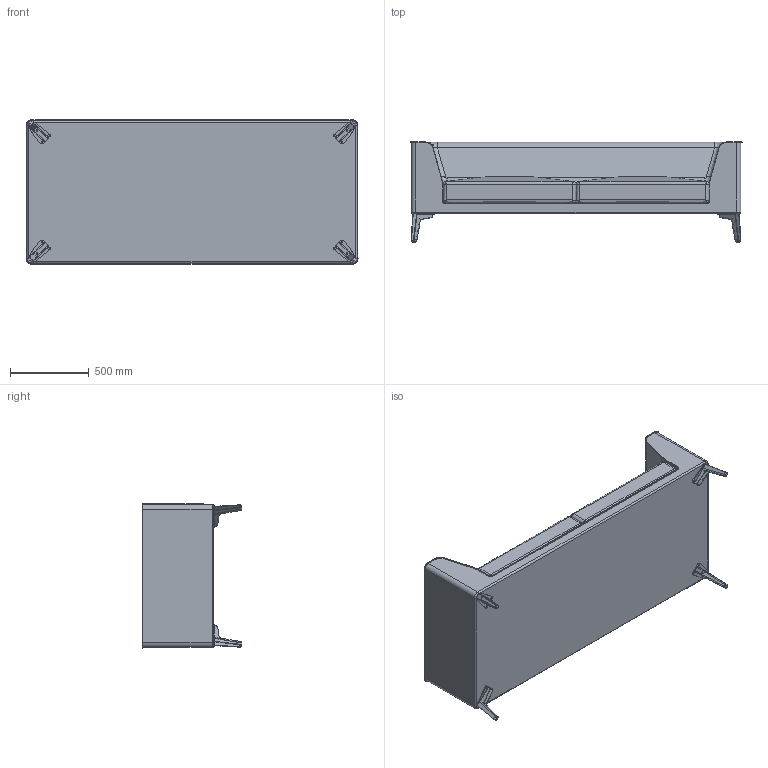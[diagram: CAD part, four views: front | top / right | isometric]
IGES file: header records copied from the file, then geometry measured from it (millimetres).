
Start section: SolidWorks IGES file using analytic representation for surfaces
Global section: file name: C:\Users\Kuma\Desktop\3ds\401AM Mcqueen Sofa Medium_vc_2017-01-13\401AM Mcqueen Sofa Medium\401AM Mcqueen Sofa Medium_IGES.IGS; native system: SolidWorks 2016; preprocessor: SolidWorks 2016; author: kuma; date: 170124.130139; units: millimetre
Bounding box: 2109 x 633.92 x 919 mm (x, y, z)
Surface area: 10430243.7 mm2 (no closed solid volume)
Topology: 0 solids, 0 shells, 499 faces, 6513 edges, 6503 vertices
Faces by surface type: bspline 286, revolution 213
